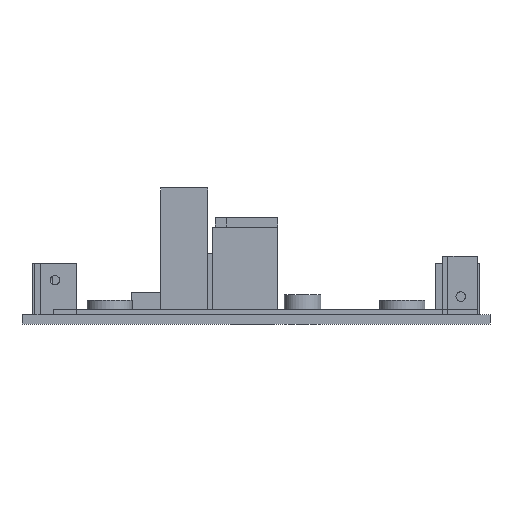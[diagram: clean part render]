
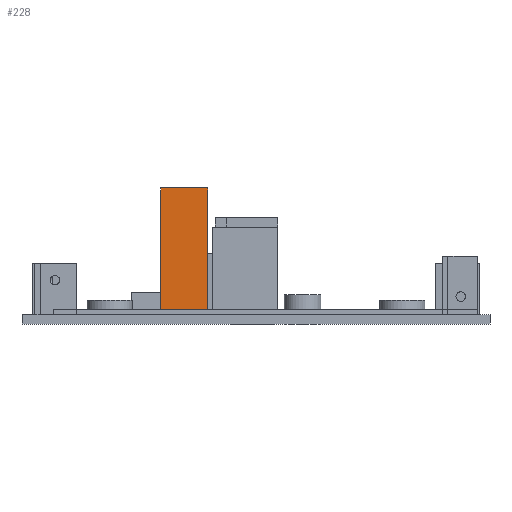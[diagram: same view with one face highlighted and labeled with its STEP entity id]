
A CAD part, left-side view. The second image highlights one B-rep face of the part: STEP entity #228.
In plain terms, the highlighted planar face has unit normal (-1, 0, 0).
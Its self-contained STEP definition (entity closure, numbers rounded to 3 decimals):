
#112 = EDGE_CURVE('',#113,#115,#117,.T.);
#113 = VERTEX_POINT('',#114);
#114 = CARTESIAN_POINT('',(13.9,45.,18.6));
#115 = VERTEX_POINT('',#116);
#116 = CARTESIAN_POINT('',(13.9,45.,0.6));
#117 = SURFACE_CURVE('',#118,(#122,#134),.PCURVE_S1.);
#118 = LINE('',#119,#120);
#119 = CARTESIAN_POINT('',(13.9,45.,18.6));
#120 = VECTOR('',#121,1.);
#121 = DIRECTION('',(0.,0.,-1.));
#122 = PCURVE('',#123,#128);
#123 = PLANE('',#124);
#124 = AXIS2_PLACEMENT_3D('',#125,#126,#127);
#125 = CARTESIAN_POINT('',(13.9,45.,18.6));
#126 = DIRECTION('',(0.,1.,0.));
#127 = DIRECTION('',(1.,0.,0.));
#128 = DEFINITIONAL_REPRESENTATION('',(#129),#133);
#129 = LINE('',#130,#131);
#130 = CARTESIAN_POINT('',(0.,0.));
#131 = VECTOR('',#132,1.);
#132 = DIRECTION('',(0.,1.));
#133 = ( GEOMETRIC_REPRESENTATION_CONTEXT(2) 
PARAMETRIC_REPRESENTATION_CONTEXT() REPRESENTATION_CONTEXT('2D SPACE',''
  ) );
#134 = PCURVE('',#135,#140);
#135 = PLANE('',#136);
#136 = AXIS2_PLACEMENT_3D('',#137,#138,#139);
#137 = CARTESIAN_POINT('',(13.9,38.6,18.6));
#138 = DIRECTION('',(1.,0.,0.));
#139 = DIRECTION('',(0.,0.,-1.));
#140 = DEFINITIONAL_REPRESENTATION('',(#141),#145);
#141 = LINE('',#142,#143);
#142 = CARTESIAN_POINT('',(0.,6.4));
#143 = VECTOR('',#144,1.);
#144 = DIRECTION('',(1.,0.));
#145 = ( GEOMETRIC_REPRESENTATION_CONTEXT(2) 
PARAMETRIC_REPRESENTATION_CONTEXT() REPRESENTATION_CONTEXT('2D SPACE',''
  ) );
#163 = PLANE('',#164);
#164 = AXIS2_PLACEMENT_3D('',#165,#166,#167);
#165 = CARTESIAN_POINT('',(13.9,38.6,18.6));
#166 = DIRECTION('',(0.,0.,-1.));
#167 = DIRECTION('',(1.,0.,0.));
#217 = PLANE('',#218);
#218 = AXIS2_PLACEMENT_3D('',#219,#220,#221);
#219 = CARTESIAN_POINT('',(13.9,38.6,0.6));
#220 = DIRECTION('',(0.,0.,-1.));
#221 = DIRECTION('',(1.,0.,0.));
#228 = ADVANCED_FACE('',(#229),#135,.F.);
#229 = FACE_BOUND('',#230,.F.);
#230 = EDGE_LOOP('',(#231,#254,#282,#303));
#231 = ORIENTED_EDGE('',*,*,#232,.F.);
#232 = EDGE_CURVE('',#233,#113,#235,.T.);
#233 = VERTEX_POINT('',#234);
#234 = CARTESIAN_POINT('',(13.9,38.6,18.6));
#235 = SURFACE_CURVE('',#236,(#240,#247),.PCURVE_S1.);
#236 = LINE('',#237,#238);
#237 = CARTESIAN_POINT('',(13.9,38.6,18.6));
#238 = VECTOR('',#239,1.);
#239 = DIRECTION('',(0.,1.,0.));
#240 = PCURVE('',#135,#241);
#241 = DEFINITIONAL_REPRESENTATION('',(#242),#246);
#242 = LINE('',#243,#244);
#243 = CARTESIAN_POINT('',(0.,0.));
#244 = VECTOR('',#245,1.);
#245 = DIRECTION('',(0.,1.));
#246 = ( GEOMETRIC_REPRESENTATION_CONTEXT(2) 
PARAMETRIC_REPRESENTATION_CONTEXT() REPRESENTATION_CONTEXT('2D SPACE',''
  ) );
#247 = PCURVE('',#163,#248);
#248 = DEFINITIONAL_REPRESENTATION('',(#249),#253);
#249 = LINE('',#250,#251);
#250 = CARTESIAN_POINT('',(0.,0.));
#251 = VECTOR('',#252,1.);
#252 = DIRECTION('',(0.,-1.));
#253 = ( GEOMETRIC_REPRESENTATION_CONTEXT(2) 
PARAMETRIC_REPRESENTATION_CONTEXT() REPRESENTATION_CONTEXT('2D SPACE',''
  ) );
#254 = ORIENTED_EDGE('',*,*,#255,.T.);
#255 = EDGE_CURVE('',#233,#256,#258,.T.);
#256 = VERTEX_POINT('',#257);
#257 = CARTESIAN_POINT('',(13.9,38.6,0.6));
#258 = SURFACE_CURVE('',#259,(#263,#270),.PCURVE_S1.);
#259 = LINE('',#260,#261);
#260 = CARTESIAN_POINT('',(13.9,38.6,18.6));
#261 = VECTOR('',#262,1.);
#262 = DIRECTION('',(0.,0.,-1.));
#263 = PCURVE('',#135,#264);
#264 = DEFINITIONAL_REPRESENTATION('',(#265),#269);
#265 = LINE('',#266,#267);
#266 = CARTESIAN_POINT('',(0.,0.));
#267 = VECTOR('',#268,1.);
#268 = DIRECTION('',(1.,0.));
#269 = ( GEOMETRIC_REPRESENTATION_CONTEXT(2) 
PARAMETRIC_REPRESENTATION_CONTEXT() REPRESENTATION_CONTEXT('2D SPACE',''
  ) );
#270 = PCURVE('',#271,#276);
#271 = PLANE('',#272);
#272 = AXIS2_PLACEMENT_3D('',#273,#274,#275);
#273 = CARTESIAN_POINT('',(13.9,38.6,18.6));
#274 = DIRECTION('',(0.,1.,0.));
#275 = DIRECTION('',(1.,0.,0.));
#276 = DEFINITIONAL_REPRESENTATION('',(#277),#281);
#277 = LINE('',#278,#279);
#278 = CARTESIAN_POINT('',(0.,0.));
#279 = VECTOR('',#280,1.);
#280 = DIRECTION('',(0.,1.));
#281 = ( GEOMETRIC_REPRESENTATION_CONTEXT(2) 
PARAMETRIC_REPRESENTATION_CONTEXT() REPRESENTATION_CONTEXT('2D SPACE',''
  ) );
#282 = ORIENTED_EDGE('',*,*,#283,.T.);
#283 = EDGE_CURVE('',#256,#115,#284,.T.);
#284 = SURFACE_CURVE('',#285,(#289,#296),.PCURVE_S1.);
#285 = LINE('',#286,#287);
#286 = CARTESIAN_POINT('',(13.9,38.6,0.6));
#287 = VECTOR('',#288,1.);
#288 = DIRECTION('',(0.,1.,0.));
#289 = PCURVE('',#135,#290);
#290 = DEFINITIONAL_REPRESENTATION('',(#291),#295);
#291 = LINE('',#292,#293);
#292 = CARTESIAN_POINT('',(18.,0.));
#293 = VECTOR('',#294,1.);
#294 = DIRECTION('',(0.,1.));
#295 = ( GEOMETRIC_REPRESENTATION_CONTEXT(2) 
PARAMETRIC_REPRESENTATION_CONTEXT() REPRESENTATION_CONTEXT('2D SPACE',''
  ) );
#296 = PCURVE('',#217,#297);
#297 = DEFINITIONAL_REPRESENTATION('',(#298),#302);
#298 = LINE('',#299,#300);
#299 = CARTESIAN_POINT('',(0.,0.));
#300 = VECTOR('',#301,1.);
#301 = DIRECTION('',(0.,-1.));
#302 = ( GEOMETRIC_REPRESENTATION_CONTEXT(2) 
PARAMETRIC_REPRESENTATION_CONTEXT() REPRESENTATION_CONTEXT('2D SPACE',''
  ) );
#303 = ORIENTED_EDGE('',*,*,#112,.F.);
